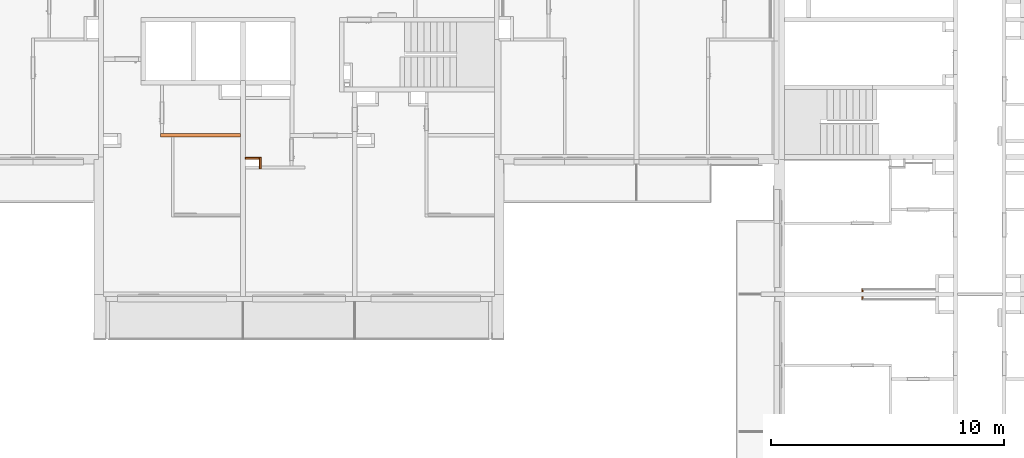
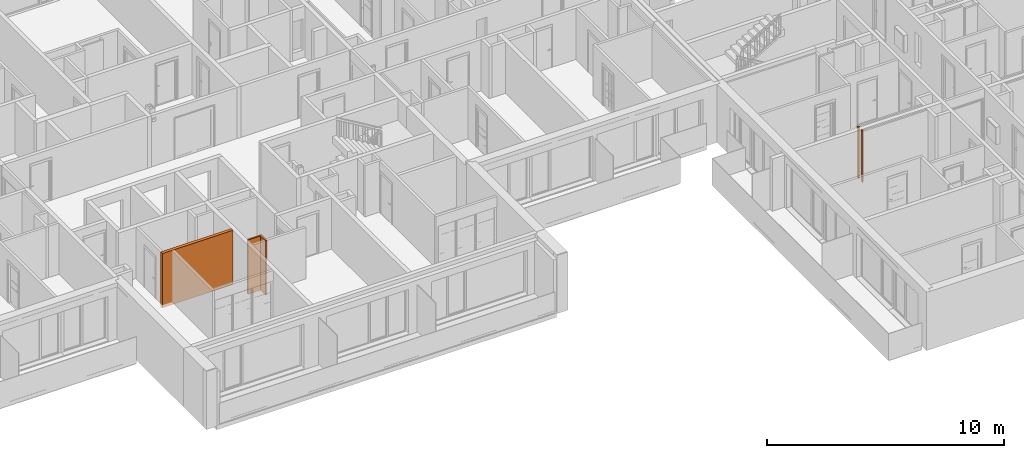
# One storey, part 58 of 66: 5 proxies.
"""IFC2X3 building model written with IfcOpenShell, lengths in millimetres."""

from ifc_helpers import new_model, entity, si_unit, converted_unit, derived_unit, money_unit, direction, frame, origin_with_axes, place, context, subcontext, project, spatial, faceted_brep, material, material_list, type_object, element, save


model = new_model("IFC2X3")

# Units and contexts
model_context = context("Model", 3, precision=0.01, world=origin_with_axes(), true_north=direction((0.34421633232, 0.938890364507)))
body_context = subcontext(model_context, "Body", "Model", "MODEL_VIEW")
ifc_project = project(units=[si_unit("LENGTHUNIT", "METRE", prefix="MILLI"), si_unit("AREAUNIT", "SQUARE_METRE"), si_unit("VOLUMEUNIT", "CUBIC_METRE"), converted_unit("PLANEANGLEUNIT", "DEGREE", entity("IfcPlaneAngleMeasure", 0.0174532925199), si_unit("PLANEANGLEUNIT", "RADIAN"), dimensions=[0, 0, 0, 0, 0, 0, 0]), si_unit("SOLIDANGLEUNIT", "STERADIAN"), money_unit("USD"), converted_unit("TIMEUNIT", "Year", entity("IfcTimeMeasure", 31556926.0), si_unit("TIMEUNIT", "SECOND"), dimensions=[0, 0, 1, 0, 0, 0, 0]), si_unit("MASSUNIT", "GRAM", prefix="KILO"), si_unit("THERMODYNAMICTEMPERATUREUNIT", "DEGREE_CELSIUS"), si_unit("LUMINOUSINTENSITYUNIT", "LUMEN"), si_unit("ENERGYUNIT", "JOULE", prefix="MEGA"), derived_unit("THERMALCONDUCTANCEUNIT", [(si_unit("POWERUNIT", "WATT"), 1), (si_unit("LENGTHUNIT", "METRE"), -1), (si_unit("THERMODYNAMICTEMPERATUREUNIT", "KELVIN"), -1)]), derived_unit("SPECIFICHEATCAPACITYUNIT", [(si_unit("ENERGYUNIT", "JOULE"), 1), (si_unit("MASSUNIT", "GRAM", prefix="KILO"), -1), (si_unit("THERMODYNAMICTEMPERATUREUNIT", "KELVIN"), -1)]), derived_unit("MASSDENSITYUNIT", [(si_unit("MASSUNIT", "GRAM", prefix="KILO"), 1), (si_unit("VOLUMEUNIT", "CUBIC_METRE"), -1)])], contexts=[model_context])

# Site, building, storey
site_placement = place(None, origin_with_axes())
site = spatial("IfcSite", under=ifc_project, at=site_placement, Name="USTRONIE MORSKIE", CompositionType="ELEMENT")
building_placement = place(site_placement, origin_with_axes())
building = spatial("IfcBuilding", under=site, at=building_placement, Name="Budynek", CompositionType="ELEMENT")
storey_placement = place(building_placement, frame((0.0, 0.0, 10000.0), z_axis=(0.0, 0.0, 1.0), x_axis=(1.0, 0.0, 0.0)))
storey = spatial("IfcBuildingStorey", under=building, at=storey_placement, Name="PIĘTRO 3", CompositionType="ELEMENT", Elevation=10000.0)

# Proxies
ifc_material_1 = material(Name="Płyta GK")
ifc_material_2 = material(Name="-Pustka powietrzna")
ifc_material_list_1 = material_list([ifc_material_1, ifc_material_1, ifc_material_2])
building_element_proxy_type_1 = type_object("IfcBuildingElementProxyType", Name="330-SD GK 2-warstwy 75", PredefinedType="NOTDEFINED")
proxy_1_placement = place(storey_placement, frame((412017.920919, 721001.199036, -180.0), z_axis=(0.0, 0.0, 1.0), x_axis=(0.0, 1.0, 0.0)))
element("IfcBuildingElementProxy", 1, at=proxy_1_placement, inside=storey, type_object=building_element_proxy_type_1, material=ifc_material_list_1, Name="Ściana-009", context=body_context, shape_type="Brep", body=[
    faceted_brep([(100.0, 12.5, 165.0), (242.5, 12.5, 165.0), (242.5, 12.5, 2820.0), (100.0, 12.5, 2820.0), (242.5, 25.0, 165.0), (100.0, 25.0, 165.0), (242.5, 25.0, 2820.0), (100.0, 25.0, 2820.0)], [[[0, 1, 2, 3]], [[4, 1, 0, 5]], [[1, 4, 6, 2]], [[6, 7, 3, 2]], [[5, 0, 3, 7]], [[4, 5, 7, 6]]]),
    faceted_brep([(100.0, 0.0, 165.0), (230.0, 0.0, 165.0), (230.0, 0.0, 2820.0), (100.0, 0.0, 2820.0), (230.0, 12.5, 165.0), (100.0, 12.5, 165.0), (230.0, 12.5, 2820.0), (100.0, 12.5, 2820.0)], [[[0, 1, 2, 3]], [[4, 1, 0, 5]], [[1, 4, 6, 2]], [[6, 7, 3, 2]], [[5, 0, 3, 7]], [[4, 5, 7, 6]]]),
    faceted_brep([(100.0, -50.0, 180.0), (180.0, -50.0, 180.0), (180.0, -50.0, 2820.0), (100.0, -50.0, 2820.0), (180.0, 0.0, 180.0), (100.0, 0.0, 180.0), (180.0, 0.0, 2820.0), (100.0, 0.0, 2820.0)], [[[0, 1, 2, 3]], [[4, 1, 0, 5]], [[1, 4, 6, 2]], [[6, 7, 3, 2]], [[5, 0, 3, 7]], [[4, 5, 7, 6]]]),
])
ifc_material_list_2 = material_list([ifc_material_2, ifc_material_1, ifc_material_1])
proxy_2_placement = place(storey_placement, frame((412017.920919, 721001.199036, -180.0), z_axis=(0.0, 0.0, 1.0), x_axis=(0.0, -1.0, 0.0)))
element("IfcBuildingElementProxy", 2, at=proxy_2_placement, inside=storey, type_object=building_element_proxy_type_1, material=ifc_material_list_2, Name="Ściana-009", context=body_context, shape_type="Brep", body=[
    faceted_brep([(180.0, 50.0, 180.0), (100.0, 50.0, 180.0), (100.0, 50.0, 2820.0), (180.0, 50.0, 2820.0), (100.0, 0.0, 180.0), (180.0, 0.0, 180.0), (100.0, 0.0, 2820.0), (180.0, 0.0, 2820.0)], [[[0, 1, 2, 3]], [[4, 1, 0, 5]], [[1, 4, 6, 2]], [[3, 2, 6, 7]], [[5, 0, 3, 7]], [[4, 5, 7, 6]]]),
    faceted_brep([(230.0, 0.0, 165.0), (100.0, 0.0, 165.0), (100.0, 0.0, 2820.0), (230.0, 0.0, 2820.0), (100.0, -12.5, 165.0), (230.0, -12.5, 165.0), (100.0, -12.5, 2820.0), (230.0, -12.5, 2820.0)], [[[0, 1, 2, 3]], [[4, 1, 0, 5]], [[1, 4, 6, 2]], [[3, 2, 6, 7]], [[5, 0, 3, 7]], [[4, 5, 7, 6]]]),
    faceted_brep([(242.5, -12.5, 165.0), (100.0, -12.5, 165.0), (100.0, -12.5, 2820.0), (242.5, -12.5, 2820.0), (100.0, -25.0, 165.0), (242.5, -25.0, 165.0), (100.0, -25.0, 2820.0), (242.5, -25.0, 2820.0)], [[[0, 1, 2, 3]], [[4, 1, 0, 5]], [[1, 4, 6, 2]], [[3, 2, 6, 7]], [[5, 0, 3, 7]], [[4, 5, 7, 6]]]),
])
ifc_material_3 = material(Name="Bloczki silikatowe")
building_element_proxy_type_2 = type_object("IfcBuildingElementProxyType", Name="Bloczki silikatowe 80", PredefinedType="NOTDEFINED")
proxy_3_placement = place(storey_placement, frame((386117.921074, 726806.199036, -160.0), z_axis=(0.0, 0.0, 1.0), x_axis=(-1.0, 0.0, 0.0)))
element("IfcBuildingElementProxy", 3, at=proxy_3_placement, inside=storey, type_object=building_element_proxy_type_2, material=ifc_material_3, Name="Ściana-010", context=body_context, shape_type="Brep", body=[
    faceted_brep([(600.000154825, -80.0, 2800.0), (600.000154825, 0.0, 2800.0), (0.0, 0.0, 2800.0), (0.0, -80.0, 2800.0), (600.000154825, -80.0, 0.0), (600.000154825, 0.0, 0.0), (0.0, 0.0, 0.0), (0.0, -80.0, 0.0)], [[[0, 1, 2, 3]], [[1, 0, 4, 5]], [[1, 5, 6, 2]], [[7, 3, 2, 6]], [[4, 0, 3, 7]], [[5, 4, 7, 6]]]),
])
proxy_4_placement = place(storey_placement, frame((386117.921074, 726446.199036, -160.0), z_axis=(0.0, 0.0, 1.0), x_axis=(0.0, 1.0, 0.0)))
element("IfcBuildingElementProxy", 4, at=proxy_4_placement, inside=storey, type_object=building_element_proxy_type_2, material=ifc_material_3, Name="Ściana-010", context=body_context, shape_type="Brep", body=[
    faceted_brep([(440.0, -80.0, 2800.0), (440.0, 0.0, 2800.0), (-59.9999999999, 0.0, 2800.0), (-59.9999999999, -80.0, 2800.0), (440.0, -80.0, 0.0), (440.0, 0.0, 0.0), (-59.9999999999, 0.0, 0.0), (-59.9999999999, -80.0, 0.0)], [[[0, 1, 2, 3]], [[1, 0, 4, 5]], [[1, 5, 6, 2]], [[7, 3, 2, 6]], [[4, 0, 3, 7]], [[5, 4, 7, 6]]]),
])
building_element_proxy_type_3 = type_object("IfcBuildingElementProxyType", Name="Bloczki silikatowe 150", PredefinedType="NOTDEFINED")
proxy_5_placement = place(storey_placement, frame((385417.920919, 727826.199036, -160.0), z_axis=(0.0, 0.0, 1.0), x_axis=(-1.0, 0.0, 0.0)))
element("IfcBuildingElementProxy", 5, at=proxy_5_placement, inside=storey, type_object=building_element_proxy_type_3, material=ifc_material_3, Name="SW-03", context=body_context, shape_type="Brep", body=[
    faceted_brep([(3540.0, 75.0, 0.0), (3540.0, -75.0, 0.0), (100.0, -75.0, 0.0), (100.0, 75.0, 0.0), (3540.0, 75.0, 2800.0), (3540.0, -75.0, 2800.0), (100.0, -75.0, 2800.0), (100.0, 75.0, 2800.0)], [[[0, 1, 2, 3]], [[1, 0, 4, 5]], [[1, 5, 6, 2]], [[7, 3, 2, 6]], [[4, 0, 3, 7]], [[5, 4, 7, 6]]]),
])

save(model, "model.ifc")
